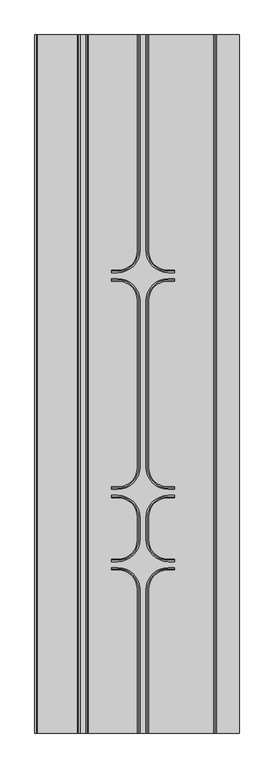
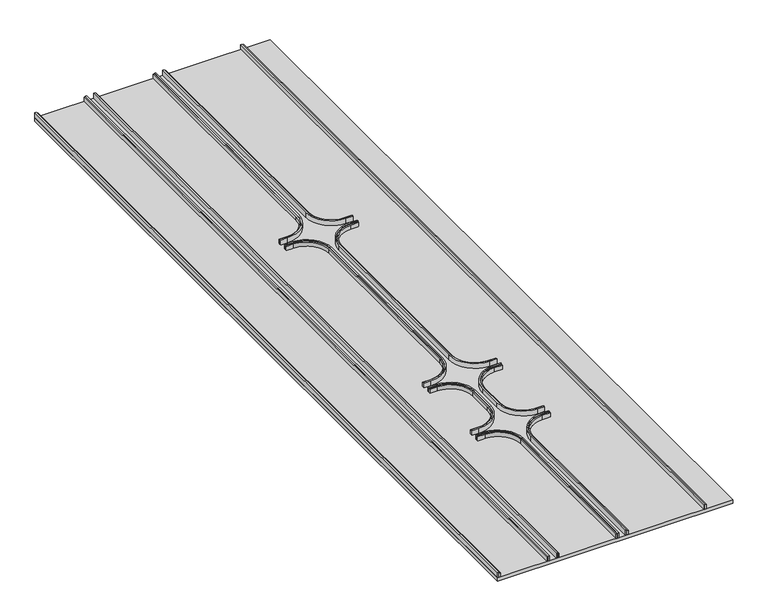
"""IFC4 building model written with IfcOpenShell, lengths in millimetres: proxy geometry, FilzFelt_Ion : Ion B."""

from ifc_helpers import new_model, si_unit, point, frame, frame_2d, origin, origin_with_axes, place, context, project, spatial, polyline, circle_curve, trimmed, segment, composite_curve, outline, extrude, source, transform, mapped, element, save


def specialty_equipment_31ee1de0(model_context):
    return source(origin(), model_context, "Body", "SweptSolid", [
        extrude(outline(polyline([(-421.8, 2946.4), (-421.8, 0.0), (-426.8, 0.0), (-426.8, 2946.4), (-421.8, 2946.4)])), frame((0.0, 0.0, 13.0), z_axis=(0.0, 0.0, 1.0), x_axis=(1.0, 0.0, 0.0)), (0.0, 0.0, 1.0), 16.0),
        extrude(outline(composite_curve([segment(trimmed(circle_curve(frame_2d((-81.2, 2037.0)), 88.9), [point((7.7, 2037.0))], [point((-81.2, 1948.1))], False, "CARTESIAN"), True, "CONTINUOUS"), segment(polyline([(-81.2, 1948.1), (-107.95, 1948.1), (-107.95, 1953.1), (-79.85, 1953.1)]), True, "CONTINUOUS"), segment(trimmed(circle_curve(frame_2d((-79.85, 2035.65)), 82.55), [point((-79.85, 1953.1))], [point((2.7, 2035.65))], True, "CARTESIAN"), True, "CONTINUOUS"), segment(polyline([(2.7, 2035.65), (2.7, 2946.4), (7.7, 2946.4), (7.7, 2037.0)]), True, "CONTINUOUS")], self_intersect=False)), frame((0.0, 0.0, 13.0), z_axis=(0.0, 0.0, 1.0), x_axis=(1.0, 0.0, 0.0)), (0.0, 0.0, 1.0), 16.0),
        extrude(outline(composite_curve([segment(trimmed(circle_curve(frame_2d((-81.2, 1823.8)), 88.9), [point((-81.2, 1912.7))], [point((7.7, 1823.8))], False, "CARTESIAN"), True, "CONTINUOUS"), segment(polyline([(7.7, 1823.8), (7.7, 1122.6)]), True, "CONTINUOUS"), segment(trimmed(circle_curve(frame_2d((-81.2, 1122.6)), 88.9), [point((7.7, 1122.6))], [point((-81.2, 1033.7))], False, "CARTESIAN"), True, "CONTINUOUS"), segment(polyline([(-81.2, 1033.7), (-107.95, 1033.7), (-107.95, 1038.7), (-79.85, 1038.7)]), True, "CONTINUOUS"), segment(trimmed(circle_curve(frame_2d((-79.85, 1121.25)), 82.55), [point((-79.85, 1038.7))], [point((2.7, 1121.25))], True, "CARTESIAN"), True, "CONTINUOUS"), segment(polyline([(2.7, 1121.25), (2.7, 1825.15)]), True, "CONTINUOUS"), segment(trimmed(circle_curve(frame_2d((-79.85, 1825.15)), 82.55), [point((2.7, 1825.15))], [point((-79.85, 1907.7))], True, "CARTESIAN"), True, "CONTINUOUS"), segment(polyline([(-79.85, 1907.7), (-107.95, 1907.7), (-107.95, 1912.7), (-81.2, 1912.7)]), True, "CONTINUOUS")], self_intersect=False)), frame((0.0, 0.0, 13.0), z_axis=(0.0, 0.0, 1.0), x_axis=(1.0, 0.0, 0.0)), (0.0, 0.0, 1.0), 16.0),
        extrude(outline(composite_curve([segment(trimmed(circle_curve(frame_2d((-81.2, 817.8)), 88.9), [point((7.7, 817.8))], [point((-81.2, 728.9))], False, "CARTESIAN"), True, "CONTINUOUS"), segment(polyline([(-81.2, 728.9), (-107.95, 728.9), (-107.95, 733.9), (-79.85, 733.9)]), True, "CONTINUOUS"), segment(trimmed(circle_curve(frame_2d((-79.85, 816.45)), 82.55), [point((-79.85, 733.9))], [point((2.7, 816.45))], True, "CARTESIAN"), True, "CONTINUOUS"), segment(polyline([(2.7, 816.45), (2.7, 910.75)]), True, "CONTINUOUS"), segment(trimmed(circle_curve(frame_2d((-79.85, 910.75)), 82.55), [point((2.7, 910.75))], [point((-79.85, 993.3))], True, "CARTESIAN"), True, "CONTINUOUS"), segment(polyline([(-79.85, 993.3), (-107.95, 993.3), (-107.95, 998.3), (-81.2, 998.3)]), True, "CONTINUOUS"), segment(trimmed(circle_curve(frame_2d((-81.2, 909.4)), 88.9), [point((-81.2, 998.3))], [point((7.7, 909.4))], False, "CARTESIAN"), True, "CONTINUOUS"), segment(polyline([(7.7, 909.4), (7.7, 817.8)]), True, "CONTINUOUS")], self_intersect=False)), frame((0.0, 0.0, 13.0), z_axis=(0.0, 0.0, 1.0), x_axis=(1.0, 0.0, 0.0)), (0.0, 0.0, 1.0), 16.0),
        extrude(outline(composite_curve([segment(trimmed(circle_curve(frame_2d((-81.2, 604.6)), 88.9), [point((-81.2, 693.5))], [point((7.7, 604.6))], False, "CARTESIAN"), True, "CONTINUOUS"), segment(polyline([(7.7, 604.6), (7.7, 0.0), (2.7, 0.0), (2.7, 605.95)]), True, "CONTINUOUS"), segment(trimmed(circle_curve(frame_2d((-79.85, 605.95)), 82.55), [point((2.7, 605.95))], [point((-79.85, 688.5))], True, "CARTESIAN"), True, "CONTINUOUS"), segment(polyline([(-79.85, 688.5), (-107.95, 688.5), (-107.95, 693.5), (-81.2, 693.5)]), True, "CONTINUOUS")], self_intersect=False)), frame((0.0, 0.0, 13.0), z_axis=(0.0, 0.0, 1.0), x_axis=(1.0, 0.0, 0.0)), (0.0, 0.0, 1.0), 16.0),
        extrude(outline(polyline([(-246.3, 2946.4), (-246.3, 0.0), (-251.3, 0.0), (-251.3, 2946.4), (-246.3, 2946.4)])), frame((0.0, 0.0, 13.0), z_axis=(0.0, 0.0, 1.0), x_axis=(1.0, 0.0, 0.0)), (0.0, 0.0, 1.0), 16.0),
        extrude(outline(polyline([(-210.9, 2946.4), (-205.9, 2946.4), (-205.9, 0.0), (-210.9, 0.0), (-210.9, 2946.4)])), frame((0.0, 0.0, 13.0), z_axis=(0.0, 0.0, 1.0), x_axis=(1.0, 0.0, 0.0)), (0.0, 0.0, 1.0), 16.0),
        extrude(outline(polyline([(335.2, 2946.4), (335.2, 0.0), (330.2, 0.0), (330.2, 2946.4), (335.2, 2946.4)])), frame((0.0, 0.0, 13.0), z_axis=(0.0, 0.0, 1.0), x_axis=(1.0, 0.0, 0.0)), (0.0, 0.0, 1.0), 16.0),
        extrude(outline(composite_curve([segment(polyline([(43.1, 2037.0), (43.1, 2946.4), (48.1, 2946.4), (48.1, 2035.65)]), True, "CONTINUOUS"), segment(trimmed(circle_curve(frame_2d((130.65, 2035.65)), 82.55), [point((48.1, 2035.65))], [point((130.65, 1953.1))], True, "CARTESIAN"), True, "CONTINUOUS"), segment(polyline([(130.65, 1953.1), (158.75, 1953.1), (158.75, 1948.1), (132.0, 1948.1)]), True, "CONTINUOUS"), segment(trimmed(circle_curve(frame_2d((132.0, 2037.0)), 88.9), [point((132.0, 1948.1))], [point((43.1, 2037.0))], False, "CARTESIAN"), True, "CONTINUOUS")], self_intersect=False)), frame((0.0, 0.0, 13.0), z_axis=(0.0, 0.0, 1.0), x_axis=(1.0, 0.0, 0.0)), (0.0, 0.0, 1.0), 16.0),
        extrude(outline(composite_curve([segment(polyline([(132.0, 1912.7), (158.75, 1912.7), (158.75, 1907.7), (130.65, 1907.7)]), True, "CONTINUOUS"), segment(trimmed(circle_curve(frame_2d((130.65, 1825.15)), 82.55), [point((130.65, 1907.7))], [point((48.1, 1825.15))], True, "CARTESIAN"), True, "CONTINUOUS"), segment(polyline([(48.1, 1825.15), (48.1, 1121.25)]), True, "CONTINUOUS"), segment(trimmed(circle_curve(frame_2d((130.65, 1121.25)), 82.55), [point((48.1, 1121.25))], [point((130.65, 1038.7))], True, "CARTESIAN"), True, "CONTINUOUS"), segment(polyline([(130.65, 1038.7), (158.75, 1038.7), (158.75, 1033.7), (132.0, 1033.7)]), True, "CONTINUOUS"), segment(trimmed(circle_curve(frame_2d((132.0, 1122.6)), 88.9), [point((132.0, 1033.7))], [point((43.1, 1122.6))], False, "CARTESIAN"), True, "CONTINUOUS"), segment(polyline([(43.1, 1122.6), (43.1, 1823.8)]), True, "CONTINUOUS"), segment(trimmed(circle_curve(frame_2d((132.0, 1823.8)), 88.9), [point((43.1, 1823.8))], [point((132.0, 1912.7))], False, "CARTESIAN"), True, "CONTINUOUS")], self_intersect=False)), frame((0.0, 0.0, 13.0), z_axis=(0.0, 0.0, 1.0), x_axis=(1.0, 0.0, 0.0)), (0.0, 0.0, 1.0), 16.0),
        extrude(outline(composite_curve([segment(polyline([(43.1, 817.8), (43.1, 909.4)]), True, "CONTINUOUS"), segment(trimmed(circle_curve(frame_2d((132.0, 909.4)), 88.9), [point((43.1, 909.4))], [point((132.0, 998.3))], False, "CARTESIAN"), True, "CONTINUOUS"), segment(polyline([(132.0, 998.3), (158.75, 998.3), (158.75, 993.3), (130.65, 993.3)]), True, "CONTINUOUS"), segment(trimmed(circle_curve(frame_2d((130.65, 910.75)), 82.55), [point((130.65, 993.3))], [point((48.1, 910.75))], True, "CARTESIAN"), True, "CONTINUOUS"), segment(polyline([(48.1, 910.75), (48.1, 816.45)]), True, "CONTINUOUS"), segment(trimmed(circle_curve(frame_2d((130.65, 816.45)), 82.55), [point((48.1, 816.45))], [point((130.65, 733.9))], True, "CARTESIAN"), True, "CONTINUOUS"), segment(polyline([(130.65, 733.9), (158.75, 733.9), (158.75, 728.9), (132.0, 728.9)]), True, "CONTINUOUS"), segment(trimmed(circle_curve(frame_2d((132.0, 817.8)), 88.9), [point((132.0, 728.9))], [point((43.1, 817.8))], False, "CARTESIAN"), True, "CONTINUOUS")], self_intersect=False)), frame((0.0, 0.0, 13.0), z_axis=(0.0, 0.0, 1.0), x_axis=(1.0, 0.0, 0.0)), (0.0, 0.0, 1.0), 16.0),
        extrude(outline(composite_curve([segment(polyline([(132.0, 693.5), (158.75, 693.5), (158.75, 688.5), (130.65, 688.5)]), True, "CONTINUOUS"), segment(trimmed(circle_curve(frame_2d((130.65, 605.95)), 82.55), [point((130.65, 688.5))], [point((48.1, 605.95))], True, "CARTESIAN"), True, "CONTINUOUS"), segment(polyline([(48.1, 605.95), (48.1, 0.0), (43.1, 0.0), (43.1, 604.6)]), True, "CONTINUOUS"), segment(trimmed(circle_curve(frame_2d((132.0, 604.6)), 88.9), [point((43.1, 604.6))], [point((132.0, 693.5))], False, "CARTESIAN"), True, "CONTINUOUS")], self_intersect=False)), frame((0.0, 0.0, 13.0), z_axis=(0.0, 0.0, 1.0), x_axis=(1.0, 0.0, 0.0)), (0.0, 0.0, 1.0), 16.0),
        extrude(outline(polyline([(-426.8, 0.0), (-431.8, 0.0), (-431.8, 2946.4), (-426.8, 2946.4), (-426.8, 0.0)])), frame((0.0, 0.0, 13.0), z_axis=(0.0, 0.0, 1.0), x_axis=(1.0, 0.0, 0.0)), (0.0, 0.0, 1.0), 19.0),
        extrude(outline(polyline([(-241.3, 0.0), (-246.3, 0.0), (-246.3, 2946.4), (-241.3, 2946.4), (-241.3, 0.0)])), frame((0.0, 0.0, 13.0), z_axis=(0.0, 0.0, 1.0), x_axis=(1.0, 0.0, 0.0)), (0.0, 0.0, 1.0), 19.0),
        extrude(outline(polyline([(-215.9, 0.0), (-215.9, 2946.4), (-210.9, 2946.4), (-210.9, 0.0), (-215.9, 0.0)])), frame((0.0, 0.0, 13.0), z_axis=(0.0, 0.0, 1.0), x_axis=(1.0, 0.0, 0.0)), (0.0, 0.0, 1.0), 19.0),
        extrude(outline(composite_curve([segment(trimmed(circle_curve(frame_2d((-82.55, 2038.35)), 95.25), [point((12.7, 2038.35))], [point((-82.55, 1943.1))], False, "CARTESIAN"), True, "CONTINUOUS"), segment(polyline([(-82.55, 1943.1), (-107.95, 1943.1), (-107.95, 1948.1), (-81.2, 1948.1)]), True, "CONTINUOUS"), segment(trimmed(circle_curve(frame_2d((-81.2, 2037.0)), 88.9), [point((-81.2, 1948.1))], [point((7.7, 2037.0))], True, "CARTESIAN"), True, "CONTINUOUS"), segment(polyline([(7.7, 2037.0), (7.7, 2946.4), (12.7, 2946.4), (12.7, 2038.35)]), True, "CONTINUOUS")], self_intersect=False)), frame((0.0, 0.0, 13.0), z_axis=(0.0, 0.0, 1.0), x_axis=(1.0, 0.0, 0.0)), (0.0, 0.0, 1.0), 19.0),
        extrude(outline(composite_curve([segment(trimmed(circle_curve(frame_2d((-82.55, 1822.45)), 95.25), [point((-82.55, 1917.7))], [point((12.7, 1822.45))], False, "CARTESIAN"), True, "CONTINUOUS"), segment(polyline([(12.7, 1822.45), (12.7, 1123.95)]), True, "CONTINUOUS"), segment(trimmed(circle_curve(frame_2d((-82.55, 1123.95)), 95.25), [point((12.7, 1123.95))], [point((-82.55, 1028.7))], False, "CARTESIAN"), True, "CONTINUOUS"), segment(polyline([(-82.55, 1028.7), (-107.95, 1028.7), (-107.95, 1033.7), (-81.2, 1033.7)]), True, "CONTINUOUS"), segment(trimmed(circle_curve(frame_2d((-81.2, 1122.6)), 88.9), [point((-81.2, 1033.7))], [point((7.7, 1122.6))], True, "CARTESIAN"), True, "CONTINUOUS"), segment(polyline([(7.7, 1122.6), (7.7, 1823.8)]), True, "CONTINUOUS"), segment(trimmed(circle_curve(frame_2d((-81.2, 1823.8)), 88.9), [point((7.7, 1823.8))], [point((-81.2, 1912.7))], True, "CARTESIAN"), True, "CONTINUOUS"), segment(polyline([(-81.2, 1912.7), (-107.95, 1912.7), (-107.95, 1917.7), (-82.55, 1917.7)]), True, "CONTINUOUS")], self_intersect=False)), frame((0.0, 0.0, 13.0), z_axis=(0.0, 0.0, 1.0), x_axis=(1.0, 0.0, 0.0)), (0.0, 0.0, 1.0), 19.0),
        extrude(outline(composite_curve([segment(trimmed(circle_curve(frame_2d((-82.55, 908.05)), 95.25), [point((-82.55, 1003.3))], [point((12.7, 908.05))], False, "CARTESIAN"), True, "CONTINUOUS"), segment(polyline([(12.7, 908.05), (12.7, 819.15)]), True, "CONTINUOUS"), segment(trimmed(circle_curve(frame_2d((-82.55, 819.15)), 95.25), [point((12.7, 819.15))], [point((-82.55, 723.9))], False, "CARTESIAN"), True, "CONTINUOUS"), segment(polyline([(-82.55, 723.9), (-107.95, 723.9), (-107.95, 728.9), (-81.2, 728.9)]), True, "CONTINUOUS"), segment(trimmed(circle_curve(frame_2d((-81.2, 817.8)), 88.9), [point((-81.2, 728.9))], [point((7.7, 817.8))], True, "CARTESIAN"), True, "CONTINUOUS"), segment(polyline([(7.7, 817.8), (7.7, 909.4)]), True, "CONTINUOUS"), segment(trimmed(circle_curve(frame_2d((-81.2, 909.4)), 88.9), [point((7.7, 909.4))], [point((-81.2, 998.3))], True, "CARTESIAN"), True, "CONTINUOUS"), segment(polyline([(-81.2, 998.3), (-107.95, 998.3), (-107.95, 1003.3), (-82.55, 1003.3)]), True, "CONTINUOUS")], self_intersect=False)), frame((0.0, 0.0, 13.0), z_axis=(0.0, 0.0, 1.0), x_axis=(1.0, 0.0, 0.0)), (0.0, 0.0, 1.0), 19.0),
        extrude(outline(composite_curve([segment(trimmed(circle_curve(frame_2d((-82.55, 603.25)), 95.25), [point((-82.55, 698.5))], [point((12.7, 603.25))], False, "CARTESIAN"), True, "CONTINUOUS"), segment(polyline([(12.7, 603.25), (12.7, 0.0), (7.7, 0.0), (7.7, 604.6)]), True, "CONTINUOUS"), segment(trimmed(circle_curve(frame_2d((-81.2, 604.6)), 88.9), [point((7.7, 604.6))], [point((-81.2, 693.5))], True, "CARTESIAN"), True, "CONTINUOUS"), segment(polyline([(-81.2, 693.5), (-107.95, 693.5), (-107.95, 698.5), (-82.55, 698.5)]), True, "CONTINUOUS")], self_intersect=False)), frame((0.0, 0.0, 13.0), z_axis=(0.0, 0.0, 1.0), x_axis=(1.0, 0.0, 0.0)), (0.0, 0.0, 1.0), 19.0),
        extrude(outline(polyline([(325.2, 2946.4), (330.2, 2946.4), (330.2, 0.0), (325.2, 0.0), (325.2, 2946.4)])), frame((0.0, 0.0, 13.0), z_axis=(0.0, 0.0, 1.0), x_axis=(1.0, 0.0, 0.0)), (0.0, 0.0, 1.0), 19.0),
        extrude(outline(composite_curve([segment(polyline([(38.1, 2038.35), (38.1, 2946.4), (43.1, 2946.4), (43.1, 2037.0)]), True, "CONTINUOUS"), segment(trimmed(circle_curve(frame_2d((132.0, 2037.0)), 88.9), [point((43.1, 2037.0))], [point((132.0, 1948.1))], True, "CARTESIAN"), True, "CONTINUOUS"), segment(polyline([(132.0, 1948.1), (158.75, 1948.1), (158.75, 1943.1), (133.35, 1943.1)]), True, "CONTINUOUS"), segment(trimmed(circle_curve(frame_2d((133.35, 2038.35)), 95.25), [point((133.35, 1943.1))], [point((38.1, 2038.35))], False, "CARTESIAN"), True, "CONTINUOUS")], self_intersect=False)), frame((0.0, 0.0, 13.0), z_axis=(0.0, 0.0, 1.0), x_axis=(1.0, 0.0, 0.0)), (0.0, 0.0, 1.0), 19.0),
        extrude(outline(composite_curve([segment(polyline([(133.35, 1917.7), (158.75, 1917.7), (158.75, 1912.7), (132.0, 1912.7)]), True, "CONTINUOUS"), segment(trimmed(circle_curve(frame_2d((132.0, 1823.8)), 88.9), [point((132.0, 1912.7))], [point((43.1, 1823.8))], True, "CARTESIAN"), True, "CONTINUOUS"), segment(polyline([(43.1, 1823.8), (43.1, 1122.6)]), True, "CONTINUOUS"), segment(trimmed(circle_curve(frame_2d((132.0, 1122.6)), 88.9), [point((43.1, 1122.6))], [point((132.0, 1033.7))], True, "CARTESIAN"), True, "CONTINUOUS"), segment(polyline([(132.0, 1033.7), (158.75, 1033.7), (158.75, 1028.7), (133.35, 1028.7)]), True, "CONTINUOUS"), segment(trimmed(circle_curve(frame_2d((133.35, 1123.95)), 95.25), [point((133.35, 1028.7))], [point((38.1, 1123.95))], False, "CARTESIAN"), True, "CONTINUOUS"), segment(polyline([(38.1, 1123.95), (38.1, 1822.45)]), True, "CONTINUOUS"), segment(trimmed(circle_curve(frame_2d((133.35, 1822.45)), 95.25), [point((38.1, 1822.45))], [point((133.35, 1917.7))], False, "CARTESIAN"), True, "CONTINUOUS")], self_intersect=False)), frame((0.0, 0.0, 13.0), z_axis=(0.0, 0.0, 1.0), x_axis=(1.0, 0.0, 0.0)), (0.0, 0.0, 1.0), 19.0),
        extrude(outline(composite_curve([segment(polyline([(133.35, 1003.3), (158.75, 1003.3), (158.75, 998.3), (132.0, 998.3)]), True, "CONTINUOUS"), segment(trimmed(circle_curve(frame_2d((132.0, 909.4)), 88.9), [point((132.0, 998.3))], [point((43.1, 909.4))], True, "CARTESIAN"), True, "CONTINUOUS"), segment(polyline([(43.1, 909.4), (43.1, 817.8)]), True, "CONTINUOUS"), segment(trimmed(circle_curve(frame_2d((132.0, 817.8)), 88.9), [point((43.1, 817.8))], [point((132.0, 728.9))], True, "CARTESIAN"), True, "CONTINUOUS"), segment(polyline([(132.0, 728.9), (158.75, 728.9), (158.75, 723.9), (133.35, 723.9)]), True, "CONTINUOUS"), segment(trimmed(circle_curve(frame_2d((133.35, 819.15)), 95.25), [point((133.35, 723.9))], [point((38.1, 819.15))], False, "CARTESIAN"), True, "CONTINUOUS"), segment(polyline([(38.1, 819.15), (38.1, 908.05)]), True, "CONTINUOUS"), segment(trimmed(circle_curve(frame_2d((133.35, 908.05)), 95.25), [point((38.1, 908.05))], [point((133.35, 1003.3))], False, "CARTESIAN"), True, "CONTINUOUS")], self_intersect=False)), frame((0.0, 0.0, 13.0), z_axis=(0.0, 0.0, 1.0), x_axis=(1.0, 0.0, 0.0)), (0.0, 0.0, 1.0), 19.0),
        extrude(outline(composite_curve([segment(polyline([(133.35, 698.5), (158.75, 698.5), (158.75, 693.5), (132.0, 693.5)]), True, "CONTINUOUS"), segment(trimmed(circle_curve(frame_2d((132.0, 604.6)), 88.9), [point((132.0, 693.5))], [point((43.1, 604.6))], True, "CARTESIAN"), True, "CONTINUOUS"), segment(polyline([(43.1, 604.6), (43.1, 0.0), (38.1, 0.0), (38.1, 603.25)]), True, "CONTINUOUS"), segment(trimmed(circle_curve(frame_2d((133.35, 603.25)), 95.25), [point((38.1, 603.25))], [point((133.35, 698.5))], False, "CARTESIAN"), True, "CONTINUOUS")], self_intersect=False)), frame((0.0, 0.0, 13.0), z_axis=(0.0, 0.0, 1.0), x_axis=(1.0, 0.0, 0.0)), (0.0, 0.0, 1.0), 19.0),
        extrude(outline(polyline([(-431.8, 0.0), (-431.8, 2946.4), (431.8, 2946.4), (431.8, 0.0), (-431.8, 0.0)])), origin_with_axes(), (0.0, 0.0, 1.0), 13.0),
    ])


if __name__ == "__main__":
    model = new_model("IFC4")
    model_context = context("Model", 3, world=origin())
    ifc_project = project(units=[si_unit("LENGTHUNIT", "METRE", prefix="MILLI")], contexts=[model_context])
    site = spatial("IfcSite", under=ifc_project)
    building = spatial("IfcBuilding", under=site)
    placement = place(None, origin())
    specialty_equipment_shape = specialty_equipment_31ee1de0(model_context)
    element("IfcBuildingElementProxy", 1, Name="FilzFelt_Ion : Ion B", ObjectType="FilzFelt_Ion : Ion B", at=placement, inside=building, context=model_context, shape_type="MappedRepresentation", body=[
        mapped(specialty_equipment_shape, transform((0.0, 0.0, 0.0), x_axis=(1.0, 0.0, 0.0), y_axis=(0.0, 1.0, 0.0), z_axis=(0.0, 0.0, 1.0))),
    ])
    save(model, "model.ifc")
